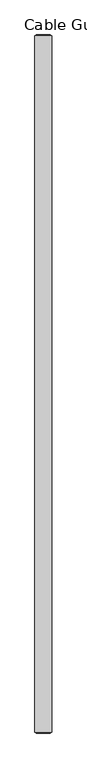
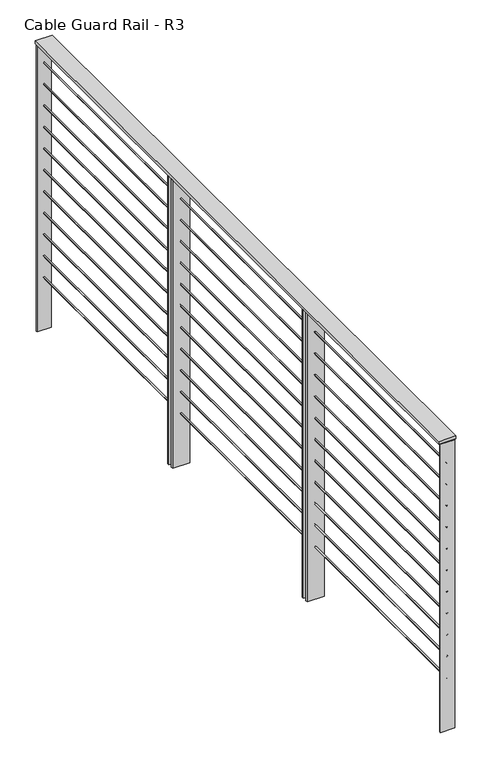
"""IFC4 building model written with IfcOpenShell, lengths in millimetres: railing geometry, Cable Guard Rail - R3."""

from ifc_helpers import new_model, si_unit, point, frame, frame_2d, origin, place, context, project, spatial, polyline, circle_curve, trimmed, segment, composite_curve, outline, extrude, source, transform, mapped, element, save


def cable_guard_rail_r3_5e0cc9d4(model_context):
    return source(origin(), model_context, "Body", "SweptSolid", [
        extrude(outline(polyline([(40071.6390585, 172224.0585669), (39995.4390585, 172224.0585669), (39995.4390585, 175351.2936306), (40071.6390585, 175351.2936306), (40071.6390585, 172224.0585669)])), frame((0.0, 0.0, 293998.65), z_axis=(0.0, 0.0, 1.0), x_axis=(1.0, 0.0, 0.0)), (0.0, 0.0, 1.0), 12.7),
        extrude(outline(composite_curve([segment(trimmed(circle_curve(frame_2d((293897.05, 40033.5390585)), 3.175), [point((293897.05, 40030.3640585))], [point((293897.05, 40036.7140585))], False, "CARTESIAN"), True, "CONTINUOUS"), segment(trimmed(circle_curve(frame_2d((293897.05, 40033.5390585)), 3.175), [point((293897.05, 40036.7140585))], [point((293897.05, 40030.3640585))], False, "CARTESIAN"), True, "CONTINUOUS")], self_intersect=False)), frame((0.0, 172224.0585669, 0.0), z_axis=(0.0, 1.0, 0.0), x_axis=(0.0, 0.0, 1.0)), (0.0, 0.0, 1.0), 3127.2350637),
        extrude(outline(composite_curve([segment(trimmed(circle_curve(frame_2d((293795.45, 40033.5390585)), 3.175), [point((293795.45, 40030.3640585))], [point((293795.45, 40036.7140585))], False, "CARTESIAN"), True, "CONTINUOUS"), segment(trimmed(circle_curve(frame_2d((293795.45, 40033.5390585)), 3.175), [point((293795.45, 40036.7140585))], [point((293795.45, 40030.3640585))], False, "CARTESIAN"), True, "CONTINUOUS")], self_intersect=False)), frame((0.0, 172224.0585669, 0.0), z_axis=(0.0, 1.0, 0.0), x_axis=(0.0, 0.0, 1.0)), (0.0, 0.0, 1.0), 3127.2350637),
        extrude(outline(composite_curve([segment(trimmed(circle_curve(frame_2d((293693.85, 40033.5390585)), 3.175), [point((293693.85, 40030.3640585))], [point((293693.85, 40036.7140585))], False, "CARTESIAN"), True, "CONTINUOUS"), segment(trimmed(circle_curve(frame_2d((293693.85, 40033.5390585)), 3.175), [point((293693.85, 40036.7140585))], [point((293693.85, 40030.3640585))], False, "CARTESIAN"), True, "CONTINUOUS")], self_intersect=False)), frame((0.0, 172224.0585669, 0.0), z_axis=(0.0, 1.0, 0.0), x_axis=(0.0, 0.0, 1.0)), (0.0, 0.0, 1.0), 3127.2350637),
        extrude(outline(composite_curve([segment(trimmed(circle_curve(frame_2d((293592.25, 40033.5390585)), 3.175), [point((293592.25, 40030.3640585))], [point((293592.25, 40036.7140585))], False, "CARTESIAN"), True, "CONTINUOUS"), segment(trimmed(circle_curve(frame_2d((293592.25, 40033.5390585)), 3.175), [point((293592.25, 40036.7140585))], [point((293592.25, 40030.3640585))], False, "CARTESIAN"), True, "CONTINUOUS")], self_intersect=False)), frame((0.0, 172224.0585669, 0.0), z_axis=(0.0, 1.0, 0.0), x_axis=(0.0, 0.0, 1.0)), (0.0, 0.0, 1.0), 3127.2350637),
        extrude(outline(composite_curve([segment(trimmed(circle_curve(frame_2d((293490.65, 40033.5390585)), 3.175), [point((293490.65, 40030.3640585))], [point((293490.65, 40036.7140585))], False, "CARTESIAN"), True, "CONTINUOUS"), segment(trimmed(circle_curve(frame_2d((293490.65, 40033.5390585)), 3.175), [point((293490.65, 40036.7140585))], [point((293490.65, 40030.3640585))], False, "CARTESIAN"), True, "CONTINUOUS")], self_intersect=False)), frame((0.0, 172224.0585669, 0.0), z_axis=(0.0, 1.0, 0.0), x_axis=(0.0, 0.0, 1.0)), (0.0, 0.0, 1.0), 3127.2350637),
        extrude(outline(composite_curve([segment(trimmed(circle_curve(frame_2d((293389.05, 40033.5390585)), 3.175), [point((293389.05, 40030.3640585))], [point((293389.05, 40036.7140585))], False, "CARTESIAN"), True, "CONTINUOUS"), segment(trimmed(circle_curve(frame_2d((293389.05, 40033.5390585)), 3.175), [point((293389.05, 40036.7140585))], [point((293389.05, 40030.3640585))], False, "CARTESIAN"), True, "CONTINUOUS")], self_intersect=False)), frame((0.0, 172224.0585669, 0.0), z_axis=(0.0, 1.0, 0.0), x_axis=(0.0, 0.0, 1.0)), (0.0, 0.0, 1.0), 3127.2350637),
        extrude(outline(composite_curve([segment(trimmed(circle_curve(frame_2d((293287.45, 40033.5390585)), 3.175), [point((293287.45, 40030.3640585))], [point((293287.45, 40036.7140585))], False, "CARTESIAN"), True, "CONTINUOUS"), segment(trimmed(circle_curve(frame_2d((293287.45, 40033.5390585)), 3.175), [point((293287.45, 40036.7140585))], [point((293287.45, 40030.3640585))], False, "CARTESIAN"), True, "CONTINUOUS")], self_intersect=False)), frame((0.0, 172224.0585669, 0.0), z_axis=(0.0, 1.0, 0.0), x_axis=(0.0, 0.0, 1.0)), (0.0, 0.0, 1.0), 3127.2350637),
        extrude(outline(composite_curve([segment(trimmed(circle_curve(frame_2d((293185.85, 40033.5390585)), 3.175), [point((293185.85, 40030.3640585))], [point((293185.85, 40036.7140585))], False, "CARTESIAN"), True, "CONTINUOUS"), segment(trimmed(circle_curve(frame_2d((293185.85, 40033.5390585)), 3.175), [point((293185.85, 40036.7140585))], [point((293185.85, 40030.3640585))], False, "CARTESIAN"), True, "CONTINUOUS")], self_intersect=False)), frame((0.0, 172224.0585669, 0.0), z_axis=(0.0, 1.0, 0.0), x_axis=(0.0, 0.0, 1.0)), (0.0, 0.0, 1.0), 3127.2350637),
        extrude(outline(composite_curve([segment(trimmed(circle_curve(frame_2d((293084.25, 40033.5390585)), 3.175), [point((293084.25, 40030.3640585))], [point((293084.25, 40036.7140585))], False, "CARTESIAN"), True, "CONTINUOUS"), segment(trimmed(circle_curve(frame_2d((293084.25, 40033.5390585)), 3.175), [point((293084.25, 40036.7140585))], [point((293084.25, 40030.3640585))], False, "CARTESIAN"), True, "CONTINUOUS")], self_intersect=False)), frame((0.0, 172224.0585669, 0.0), z_axis=(0.0, 1.0, 0.0), x_axis=(0.0, 0.0, 1.0)), (0.0, 0.0, 1.0), 3127.2350637),
        extrude(outline(composite_curve([segment(trimmed(circle_curve(frame_2d((292982.65, 40033.5390585)), 3.175), [point((292982.65, 40030.3640585))], [point((292982.65, 40036.7140585))], False, "CARTESIAN"), True, "CONTINUOUS"), segment(trimmed(circle_curve(frame_2d((292982.65, 40033.5390585)), 3.175), [point((292982.65, 40036.7140585))], [point((292982.65, 40030.3640585))], False, "CARTESIAN"), True, "CONTINUOUS")], self_intersect=False)), frame((0.0, 172224.0585669, 0.0), z_axis=(0.0, 1.0, 0.0), x_axis=(0.0, 0.0, 1.0)), (0.0, 0.0, 1.0), 3127.2350637),
        extrude(outline(composite_curve([segment(trimmed(circle_curve(frame_2d((292881.05, 40033.5390585)), 3.175), [point((292881.05, 40030.3640585))], [point((292881.05, 40036.7140585))], False, "CARTESIAN"), True, "CONTINUOUS"), segment(trimmed(circle_curve(frame_2d((292881.05, 40033.5390585)), 3.175), [point((292881.05, 40036.7140585))], [point((292881.05, 40030.3640585))], False, "CARTESIAN"), True, "CONTINUOUS")], self_intersect=False)), frame((0.0, 172224.0585669, 0.0), z_axis=(0.0, 1.0, 0.0), x_axis=(0.0, 0.0, 1.0)), (0.0, 0.0, 1.0), 3127.2350637),
        extrude(outline(polyline([(39995.4390585, 174286.6569427), (39995.4390585, 174296.1819427), (40071.6390585, 174296.1819427), (40071.6390585, 174286.6569427), (39995.4390585, 174286.6569427)])), frame((0.0, 0.0, 292633.4), z_axis=(0.0, 0.0, 1.0), x_axis=(1.0, 0.0, 0.0)), (0.0, 0.0, 1.0), 1365.25),
        extrude(outline(polyline([(39995.4390585, 174315.2319427), (39995.4390585, 174324.7087073), (40071.6390585, 174324.7087073), (40071.6390585, 174315.2319427), (39995.4390585, 174315.2319427)])), frame((0.0, 0.0, 292633.4), z_axis=(0.0, 0.0, 1.0), x_axis=(1.0, 0.0, 0.0)), (0.0, 0.0, 1.0), 1365.25),
        extrude(outline(polyline([(39995.4390585, 173244.2452548), (39995.4390585, 173253.7702548), (40071.6390585, 173253.7702548), (40071.6390585, 173244.2452548), (39995.4390585, 173244.2452548)])), frame((0.0, 0.0, 292633.4), z_axis=(0.0, 0.0, 1.0), x_axis=(1.0, 0.0, 0.0)), (0.0, 0.0, 1.0), 1365.25),
        extrude(outline(polyline([(39995.4390585, 173272.8202548), (39995.4390585, 173282.2970194), (40071.6390585, 173282.2970194), (40071.6390585, 173272.8202548), (39995.4390585, 173272.8202548)])), frame((0.0, 0.0, 292633.4), z_axis=(0.0, 0.0, 1.0), x_axis=(1.0, 0.0, 0.0)), (0.0, 0.0, 1.0), 1365.25),
        extrude(outline(polyline([(40001.7890585, 175348.1186306), (40001.7890585, 175354.4686306), (40065.2890585, 175354.4686306), (40065.2890585, 175348.1186306), (40001.7890585, 175348.1186306)])), frame((0.0, 0.0, 292633.4), z_axis=(0.0, 0.0, 1.0), x_axis=(1.0, 0.0, 0.0)), (0.0, 0.0, 1.0), 1365.25),
        extrude(outline(polyline([(40001.7890585, 172220.8835669), (40001.7890585, 172227.2335669), (40065.2890585, 172227.2335669), (40065.2890585, 172220.8835669), (40001.7890585, 172220.8835669)])), frame((0.0, 0.0, 292633.4), z_axis=(0.0, 0.0, 1.0), x_axis=(1.0, 0.0, 0.0)), (0.0, 0.0, 1.0), 1365.25),
    ])


if __name__ == "__main__":
    model = new_model("IFC4")
    model_context = context("Model", 3, world=origin())
    ifc_project = project(units=[si_unit("LENGTHUNIT", "METRE", prefix="MILLI")], contexts=[model_context])
    site = spatial("IfcSite", under=ifc_project)
    building = spatial("IfcBuilding", under=site)
    placement = place(None, origin())
    cable_guard_rail_r3_shape = cable_guard_rail_r3_5e0cc9d4(model_context)
    element("IfcRailing", 1, ObjectType="Cable Guard Rail - R3", at=placement, inside=building, context=model_context, shape_type="MappedRepresentation", body=[
        mapped(cable_guard_rail_r3_shape, transform((0.0, 0.0, 0.0), x_axis=(1.0, 0.0, 0.0), y_axis=(0.0, 1.0, 0.0), z_axis=(0.0, 0.0, 1.0))),
    ])
    save(model, "model.ifc")
